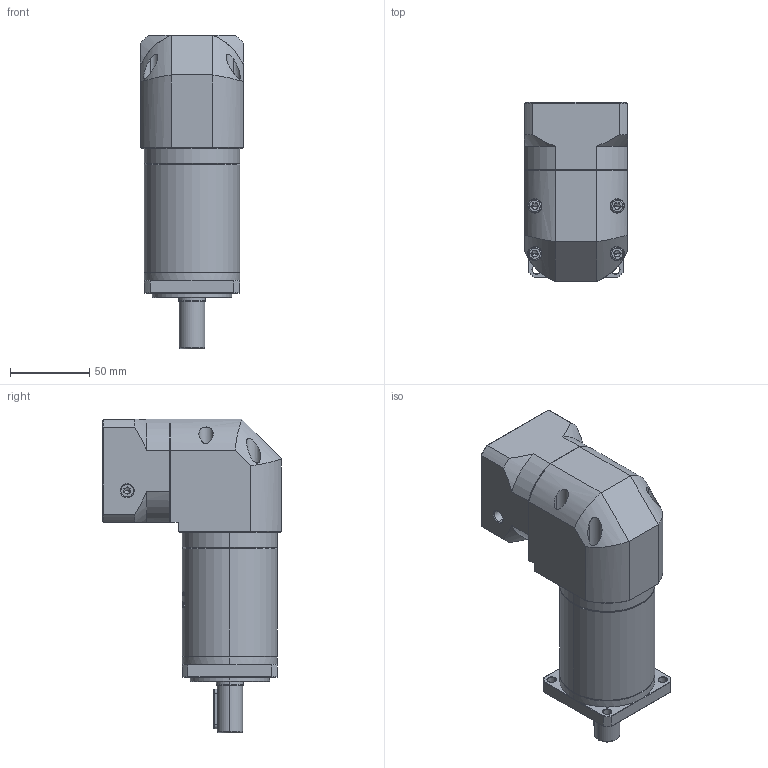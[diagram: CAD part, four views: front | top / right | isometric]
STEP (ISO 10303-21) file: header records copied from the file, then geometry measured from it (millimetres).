
FILE_DESCRIPTION (( 'STEP AP214' ), '1' );
FILE_NAME ('ZFR060-D16-L3-P2-11-60-75-M5.step', '2023-08-17T03:35:54', ( '' ), ( '' ), 'SwSTEP 2.0', 'SolidWorks 2016', '' );
FILE_SCHEMA (( 'AUTOMOTIVE_DESIGN' ));
Length unit declared in the file: millimetre
Products named in the file (1): ZFR060-D16-L3-P2-11-60-75-M5
Bounding box: 65 x 112.7 x 197.5 mm (x, y, z)
Volume: 652504.9 mm3; surface area: 86650.1 mm2
Topology: 5 solids, 6 shells, 1922 faces, 5125 edges, 3300 vertices
Faces by surface type: plane 847, cylinder 407, bspline 366, cone 290, torus 12
Entity records: 106790 total; most frequent: CARTESIAN_POINT 42036, ORIENTED_EDGE 10206, DIRECTION 7580, EDGE_CURVE 5103, VERTEX_POINT 3300, LINE 2614, VECTOR 2614, AXIS2_PLACEMENT_3D 2483
